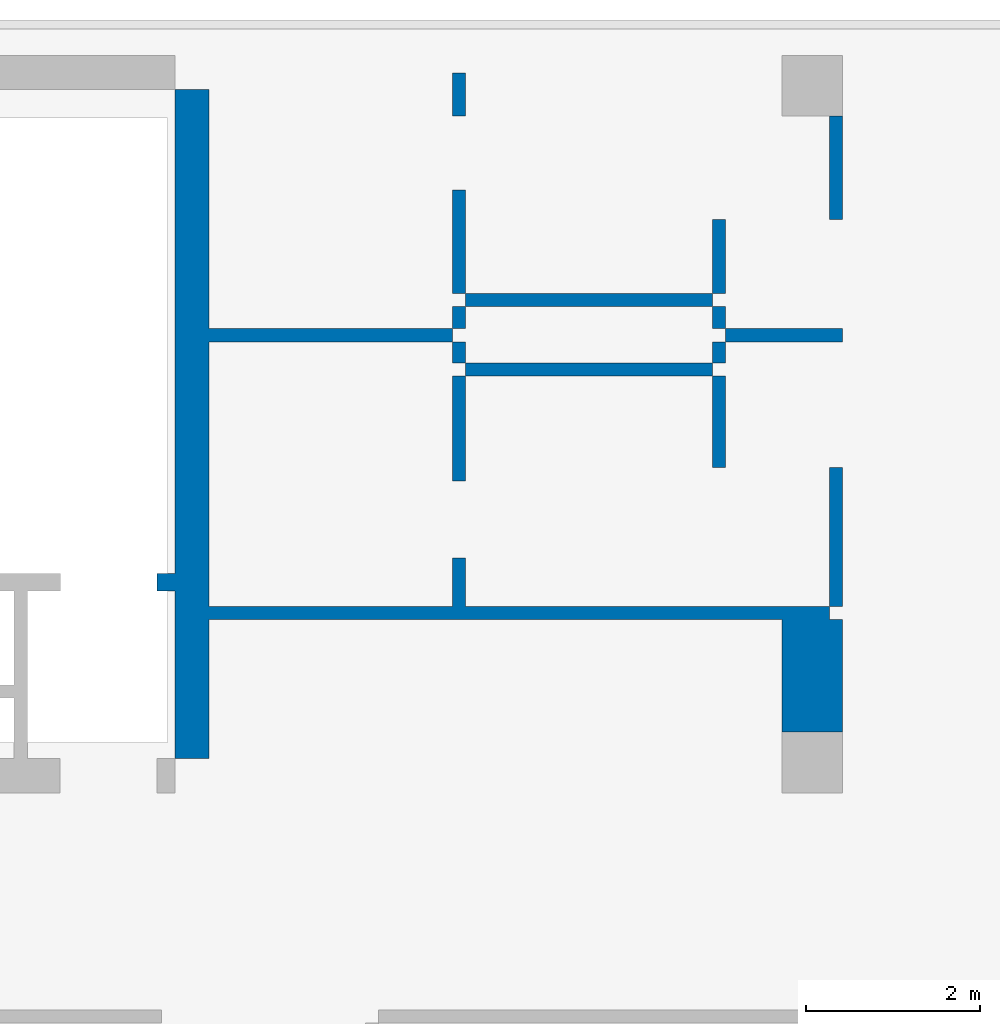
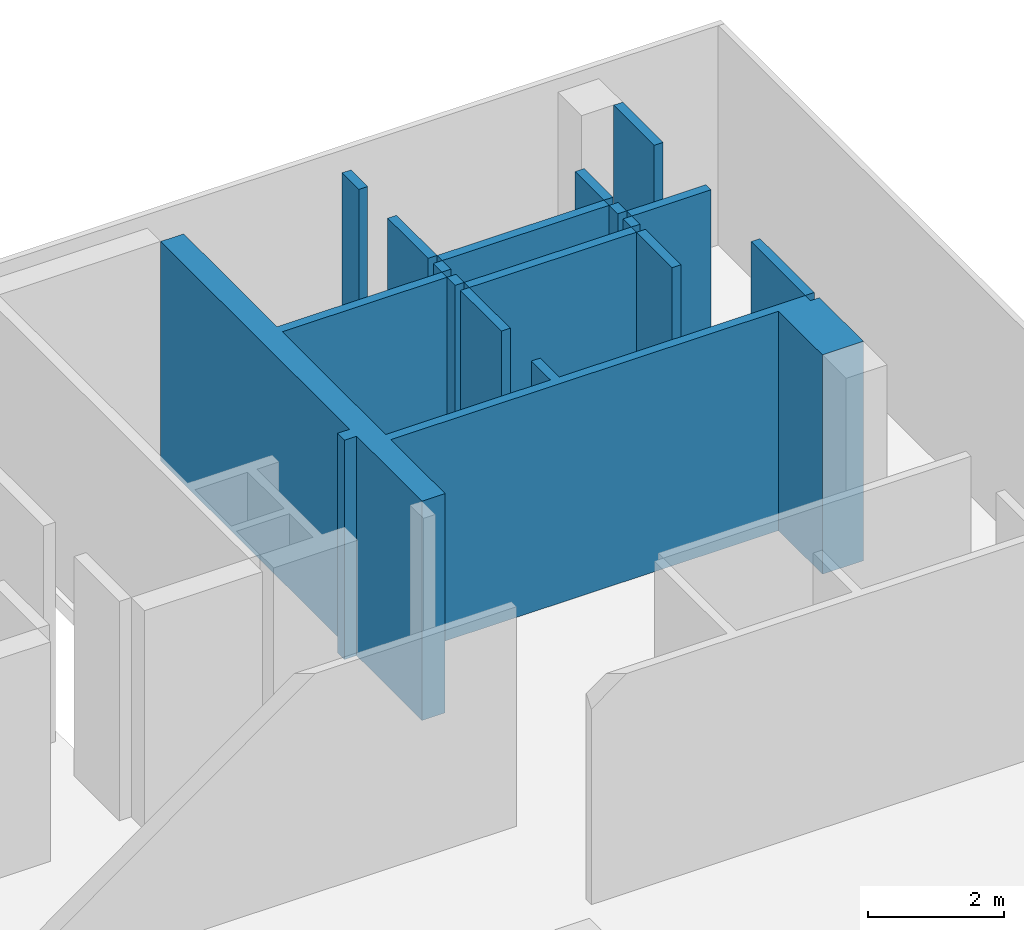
# One storey, part 3 of 5: 15 walls.
"""IFC4 building model written with IfcOpenShell, lengths in millimetres."""

from ifc_helpers import new_model, si_unit, frame, origin, place, context, project, spatial, triangles, element, save


model = new_model("IFC4")

# Units and contexts
model_context = context("Model", 3, precision=0.001, world=origin())
ifc_project = project(units=[si_unit("LENGTHUNIT", "METRE", prefix="MILLI"), si_unit("AREAUNIT", "SQUARE_METRE"), si_unit("VOLUMEUNIT", "CUBIC_METRE")], contexts=[model_context])

# Site, building, storey
site_placement = place(None, origin())
site = spatial("IfcSite", under=ifc_project, at=site_placement, Name="Site", CompositionType="ELEMENT")
building_placement = place(site_placement, origin())
building = spatial("IfcBuilding", under=site, at=building_placement, Name="INNOCEAN", CompositionType="ELEMENT")
storey_placement = place(building_placement, frame((0.0, 0.0, 76400.0)))
storey = spatial("IfcBuildingStorey", under=building, at=storey_placement, Name="F18", CompositionType="ELEMENT", Elevation=76400.0)

# Walls
wall_1_placement = place(storey_placement, origin())
element("IfcWall", 1, at=wall_1_placement, inside=storey, Name="F18_Walls_F18_074", context=model_context, shape_type="Tessellation", body=[
    triangles([(47413.4, 18916.5, 0.0), (47413.4, 17620.9, 0.0), (47413.4, 17620.9, 3950.0), (47413.4, 18916.5, 3950.0), (40813.0, 18916.5, 3950.0), (40813.0, 18916.5, 0.0), (40813.0, 17316.1, 0.0), (40813.0, 17316.1, 3950.0), (40419.5, 17316.1, 0.0), (40419.5, 17316.1, 3950.0), (40419.5, 19245.0, 0.0), (40419.5, 19245.0, 3950.0), (40215.0, 19245.0, 3950.0), (40215.0, 19245.0, 0.0), (40215.0, 19450.0, 0.0), (40215.0, 19450.0, 3950.0), (40419.5, 19450.0, 3950.0), (40419.5, 19450.0, 0.0), (40419.5, 25025.8, 0.0), (40419.5, 25025.8, 3950.0), (40813.0, 25025.8, 0.0), (40813.0, 25025.8, 3950.0), (40813.0, 22269.6, 0.0), (40813.0, 22269.6, 3950.0), (43618.2, 22269.6, 0.0), (43618.2, 22269.6, 3950.0), (43618.2, 22117.2, 0.0), (43618.2, 22117.2, 3950.0), (40813.0, 22117.2, 0.0), (40813.0, 22117.2, 3950.0), (40813.0, 19449.9, 0.0), (40813.0, 19449.9, 3950.0), (40813.0, 19068.9, 3950.0), (40813.0, 19068.9, 0.0), (43618.2, 19068.9, 0.0), (43618.2, 19068.9, 3950.0), (43618.2, 19627.7, 0.0), (43618.2, 19627.7, 3950.0), (43620.0, 19627.7, 3950.0), (43620.0, 19627.7, 0.0), (43620.0, 19630.0, 0.0), (43620.0, 19630.0, 3950.0), (43770.0, 19630.0, 3950.0), (43770.0, 19630.0, 0.0), (43770.0, 19627.7, 0.0), (43770.0, 19627.7, 3950.0), (43770.5, 19627.7, 0.0), (43770.5, 19627.7, 3950.0), (43770.5, 19068.9, 0.0), (43770.5, 19068.9, 3950.0), (47959.2, 19068.9, 0.0), (47959.2, 19068.9, 3950.0), (47959.2, 18916.5, 0.0), (47959.2, 18916.5, 3950.0), (48111.6, 18916.5, 0.0), (48111.6, 18916.5, 3950.0), (48111.6, 17620.9, 0.0), (48111.6, 17620.9, 3950.0), (47959.2, 17620.9, 0.0), (47959.2, 17620.9, 3950.0), (47565.8, 17620.9, 3950.0), (47565.8, 17620.9, 0.0)], [[1, 2, 3], [1, 3, 4], [5, 1, 4], [6, 1, 5], [7, 6, 5], [7, 5, 8], [9, 7, 8], [9, 8, 10], [11, 9, 10], [11, 10, 12], [11, 12, 13], [14, 11, 13], [15, 14, 13], [15, 13, 16], [15, 16, 17], [18, 15, 17], [19, 18, 17], [19, 17, 20], [21, 19, 20], [21, 20, 22], [23, 21, 22], [23, 22, 24], [25, 23, 24], [25, 24, 26], [27, 25, 26], [27, 26, 28], [29, 27, 28], [29, 28, 30], [31, 29, 30], [31, 30, 32], [31, 32, 33], [34, 31, 33], [35, 34, 33], [35, 33, 36], [37, 35, 36], [37, 36, 38], [37, 38, 39], [40, 37, 39], [41, 40, 39], [41, 39, 42], [41, 42, 43], [44, 41, 43], [45, 44, 43], [45, 43, 46], [47, 45, 46], [47, 46, 48], [49, 47, 48], [49, 48, 50], [51, 49, 50], [51, 50, 52], [53, 51, 52], [53, 52, 54], [55, 53, 54], [55, 54, 56], [57, 55, 56], [57, 56, 58], [59, 57, 58], [59, 58, 60], [59, 60, 61], [62, 59, 61], [2, 62, 61], [2, 61, 3], [53, 55, 57], [53, 57, 59], [53, 59, 62], [1, 51, 53], [1, 62, 2], [1, 53, 62], [45, 47, 49], [40, 45, 49], [40, 49, 35], [37, 40, 35], [41, 44, 45], [41, 45, 40], [6, 7, 9], [34, 35, 6], [11, 31, 34], [11, 34, 6], [18, 31, 11], [15, 11, 14], [15, 18, 11], [29, 31, 18], [23, 25, 27], [23, 27, 29], [19, 21, 23], [1, 6, 35], [1, 35, 49], [1, 49, 51], [9, 11, 6], [18, 19, 23], [18, 23, 29], [56, 54, 58], [58, 54, 60], [60, 54, 61], [52, 4, 54], [61, 4, 3], [54, 4, 61], [48, 46, 50], [46, 39, 50], [50, 39, 36], [39, 38, 36], [43, 42, 46], [46, 42, 39], [8, 5, 10], [36, 33, 5], [32, 12, 33], [33, 12, 5], [32, 17, 12], [12, 16, 13], [17, 16, 12], [32, 30, 17], [26, 24, 28], [28, 24, 30], [22, 20, 24], [5, 4, 36], [36, 4, 50], [50, 4, 52], [12, 10, 5], [20, 17, 24], [24, 17, 30]], closed=True),
])
wall_2_placement = place(storey_placement, origin())
element("IfcWall", 2, at=wall_2_placement, inside=storey, Name="F18_Walls_F18_075", context=model_context, shape_type="Tessellation", body=[
    triangles([(48111.6, 19068.9, 0.0), (48111.6, 20669.2, 0.0), (48111.6, 20669.2, 3950.0), (48111.6, 19068.9, 3950.0), (47959.2, 19068.9, 0.0), (47959.2, 19068.9, 3950.0), (47959.2, 20669.2, 0.0), (47959.2, 20669.2, 3950.0)], [[1, 2, 3], [1, 3, 4], [5, 1, 4], [5, 4, 6], [7, 5, 6], [7, 6, 8], [2, 7, 8], [2, 8, 3], [7, 2, 1], [7, 1, 5], [3, 8, 4], [4, 8, 6]], closed=True),
])
wall_3_placement = place(storey_placement, origin())
element("IfcWall", 3, at=wall_3_placement, inside=storey, Name="F18_Walls_F18_076", context=model_context, shape_type="Tessellation", body=[
    triangles([(43770.5, 20516.8, 0.0), (43770.5, 21723.5, 0.0), (43770.5, 21723.5, 3950.0), (43770.5, 20516.8, 3950.0), (43618.2, 20516.8, 0.0), (43618.2, 20516.8, 3950.0), (43618.2, 21723.5, 0.0), (43618.2, 21723.5, 3950.0)], [[1, 2, 3], [1, 3, 4], [5, 1, 4], [5, 4, 6], [7, 5, 6], [7, 6, 8], [2, 7, 8], [2, 8, 3], [2, 1, 5], [7, 2, 5], [4, 3, 6], [3, 8, 6]], closed=True),
])
wall_4_placement = place(storey_placement, origin())
element("IfcWall", 4, at=wall_4_placement, inside=storey, Name="F18_Walls_F18_077", context=model_context, shape_type="Tessellation", body=[
    triangles([(46766.1, 20669.2, 0.0), (46766.1, 21723.5, 0.0), (46766.1, 21723.5, 3950.0), (46766.1, 20669.2, 3950.0), (46613.8, 20669.2, 0.0), (46613.8, 20669.2, 3950.0), (46613.8, 21723.5, 0.0), (46613.8, 21723.5, 3950.0)], [[1, 2, 3], [1, 3, 4], [5, 1, 4], [5, 4, 6], [7, 5, 6], [7, 6, 8], [2, 7, 8], [2, 8, 3], [7, 2, 1], [7, 1, 5], [3, 8, 4], [4, 8, 6]], closed=True),
])
wall_5_placement = place(storey_placement, origin())
element("IfcWall", 5, at=wall_5_placement, inside=storey, Name="F18_Walls_F18_078", context=model_context, shape_type="Tessellation", body=[
    triangles([(43770.5, 21875.9, 0.0), (43770.5, 21875.9, 3950.0), (46613.8, 21875.9, 3950.0), (46613.8, 21875.9, 0.0), (46613.8, 21723.5, 0.0), (46613.8, 21723.5, 3950.0), (43770.5, 21723.5, 3950.0), (43770.5, 21723.5, 0.0)], [[1, 2, 3], [4, 1, 3], [5, 4, 3], [5, 3, 6], [5, 6, 7], [8, 5, 7], [1, 8, 7], [1, 7, 2], [1, 4, 5], [1, 5, 8], [3, 2, 6], [6, 2, 7]], closed=True),
])
wall_6_placement = place(storey_placement, origin())
element("IfcWall", 6, at=wall_6_placement, inside=storey, Name="F18_Walls_F18_079", context=model_context, shape_type="Tessellation", body=[
    triangles([(46613.8, 21875.9, 0.0), (46766.1, 21875.9, 0.0), (46766.1, 21875.9, 3950.0), (46613.8, 21875.9, 3950.0), (46613.8, 22117.2, 3950.0), (46613.8, 22117.2, 0.0), (46766.1, 22117.2, 0.0), (46766.1, 22117.2, 3950.0)], [[1, 2, 3], [1, 3, 4], [1, 4, 5], [6, 1, 5], [7, 6, 5], [7, 5, 8], [7, 8, 3], [2, 7, 3], [7, 2, 1], [6, 7, 1], [3, 8, 4], [8, 5, 4]], closed=True),
])
wall_7_placement = place(storey_placement, origin())
element("IfcWall", 7, at=wall_7_placement, inside=storey, Name="F18_Walls_F18_080", context=model_context, shape_type="Tessellation", body=[
    triangles([(43618.2, 21875.9, 0.0), (43770.5, 21875.9, 0.0), (43770.5, 21875.9, 3950.0), (43618.2, 21875.9, 3950.0), (43618.2, 22117.2, 3950.0), (43618.2, 22117.2, 0.0), (43770.5, 22117.2, 0.0), (43770.5, 22117.2, 3950.0)], [[1, 2, 3], [1, 3, 4], [1, 4, 5], [6, 1, 5], [7, 6, 5], [7, 5, 8], [7, 8, 3], [2, 7, 3], [7, 2, 1], [6, 7, 1], [3, 8, 4], [8, 5, 4]], closed=True),
])
wall_8_placement = place(storey_placement, origin())
element("IfcWall", 8, at=wall_8_placement, inside=storey, Name="F18_Walls_F18_081", context=model_context, shape_type="Tessellation", body=[
    triangles([(48111.6, 22117.2, 0.0), (48111.6, 22269.6, 0.0), (48111.6, 22269.6, 3950.0), (48111.6, 22117.2, 3950.0), (46766.1, 22117.2, 0.0), (46766.1, 22117.2, 3950.0), (46766.1, 22269.6, 0.0), (46766.1, 22269.6, 3950.0)], [[1, 2, 3], [1, 3, 4], [5, 1, 4], [5, 4, 6], [7, 5, 6], [7, 6, 8], [2, 7, 8], [2, 8, 3], [7, 2, 1], [7, 1, 5], [3, 8, 4], [4, 8, 6]], closed=True),
])
wall_9_placement = place(storey_placement, origin())
element("IfcWall", 9, at=wall_9_placement, inside=storey, Name="F18_Walls_F18_082", context=model_context, shape_type="Tessellation", body=[
    triangles([(43770.5, 22523.6, 0.0), (43618.2, 22523.6, 0.0), (43618.2, 22523.6, 3950.0), (43770.5, 22523.6, 3950.0), (43770.5, 22269.6, 0.0), (43770.5, 22269.6, 3950.0), (43618.2, 22269.6, 0.0), (43618.2, 22269.6, 3950.0)], [[1, 2, 3], [1, 3, 4], [5, 1, 4], [5, 4, 6], [7, 5, 6], [7, 6, 8], [2, 7, 8], [2, 8, 3], [1, 5, 7], [2, 1, 7], [6, 4, 8], [4, 3, 8]], closed=True),
])
wall_10_placement = place(storey_placement, origin())
element("IfcWall", 10, at=wall_10_placement, inside=storey, Name="F18_Walls_F18_083", context=model_context, shape_type="Tessellation", body=[
    triangles([(46766.1, 22523.6, 0.0), (46613.8, 22523.6, 0.0), (46613.8, 22523.6, 3950.0), (46766.1, 22523.6, 3950.0), (46766.1, 22269.6, 0.0), (46766.1, 22269.6, 3950.0), (46613.8, 22269.6, 0.0), (46613.8, 22269.6, 3950.0)], [[1, 2, 3], [1, 3, 4], [5, 1, 4], [5, 4, 6], [7, 5, 6], [7, 6, 8], [2, 7, 8], [2, 8, 3], [1, 5, 7], [2, 1, 7], [6, 4, 8], [4, 3, 8]], closed=True),
])
wall_11_placement = place(storey_placement, origin())
element("IfcWall", 11, at=wall_11_placement, inside=storey, Name="F18_Walls_F18_084", context=model_context, shape_type="Tessellation", body=[
    triangles([(46613.8, 22523.6, 0.0), (46613.8, 22523.6, 3950.0), (43770.5, 22523.6, 3950.0), (43770.5, 22523.6, 0.0), (43770.5, 22676.1, 0.0), (43770.5, 22676.1, 3950.0), (46613.8, 22676.1, 3950.0), (46613.8, 22676.1, 0.0)], [[1, 2, 3], [4, 1, 3], [5, 4, 3], [5, 3, 6], [5, 6, 7], [8, 5, 7], [1, 8, 7], [1, 7, 2], [4, 8, 1], [5, 8, 4], [7, 3, 2], [7, 6, 3]], closed=True),
])
wall_12_placement = place(storey_placement, origin())
element("IfcWall", 12, at=wall_12_placement, inside=storey, Name="F18_Walls_F18_085", context=model_context, shape_type="Tessellation", body=[
    triangles([(46766.1, 22676.1, 0.0), (46766.1, 23527.0, 0.0), (46766.1, 23527.0, 3950.0), (46766.1, 22676.1, 3950.0), (46613.8, 22676.1, 0.0), (46613.8, 22676.1, 3950.0), (46613.8, 23527.0, 0.0), (46613.8, 23527.0, 3950.0)], [[1, 2, 3], [1, 3, 4], [5, 1, 4], [5, 4, 6], [7, 5, 6], [7, 6, 8], [2, 7, 8], [2, 8, 3], [7, 2, 1], [7, 1, 5], [3, 8, 4], [4, 8, 6]], closed=True),
])
wall_13_placement = place(storey_placement, origin())
element("IfcWall", 13, at=wall_13_placement, inside=storey, Name="F18_Walls_F18_086", context=model_context, shape_type="Tessellation", body=[
    triangles([(43770.5, 23870.0, 0.0), (43770.5, 23870.0, 3950.0), (43770.5, 22676.1, 3950.0), (43770.5, 22676.1, 0.0), (43618.2, 22676.1, 0.0), (43618.2, 22676.1, 3950.0), (43618.2, 23870.0, 3950.0), (43618.2, 23870.0, 0.0)], [[1, 2, 3], [4, 1, 3], [5, 4, 3], [5, 3, 6], [5, 6, 7], [8, 5, 7], [1, 8, 7], [1, 7, 2], [8, 1, 4], [8, 4, 5], [2, 7, 3], [3, 7, 6]], closed=True),
])
wall_14_placement = place(storey_placement, origin())
element("IfcWall", 14, at=wall_14_placement, inside=storey, Name="F18_Walls_F18_087", context=model_context, shape_type="Tessellation", body=[
    triangles([(48111.6, 23527.0, 0.0), (48111.6, 24721.0, 0.0), (48111.6, 24721.0, 3950.0), (48111.6, 23527.0, 3950.0), (47959.2, 23527.0, 0.0), (47959.2, 23527.0, 3950.0), (47959.2, 24721.0, 0.0), (47959.2, 24721.0, 3950.0)], [[1, 2, 3], [1, 3, 4], [5, 1, 4], [5, 4, 6], [7, 5, 6], [7, 6, 8], [2, 7, 8], [2, 8, 3], [2, 1, 5], [7, 2, 5], [4, 3, 6], [3, 8, 6]], closed=True),
])
wall_15_placement = place(storey_placement, origin())
element("IfcWall", 15, at=wall_15_placement, inside=storey, Name="F18_Walls_F18_088", context=model_context, shape_type="Tessellation", body=[
    triangles([(43618.2, 24721.0, 0.0), (43770.5, 24721.0, 0.0), (43770.5, 24721.0, 3950.0), (43618.2, 24721.0, 3950.0), (43618.2, 25216.3, 3950.0), (43618.2, 25216.3, 0.0), (43770.5, 25216.3, 0.0), (43770.5, 25216.3, 3950.0)], [[1, 2, 3], [1, 3, 4], [1, 4, 5], [6, 1, 5], [7, 6, 5], [7, 5, 8], [7, 8, 3], [2, 7, 3], [7, 2, 1], [6, 7, 1], [3, 8, 4], [8, 5, 4]], closed=True),
])

save(model, "model.ifc")
